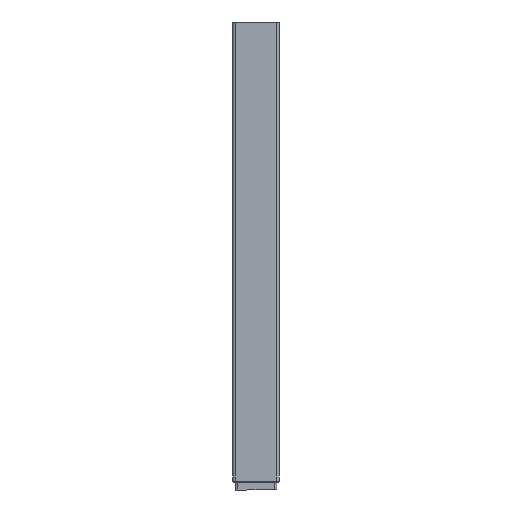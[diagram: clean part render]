
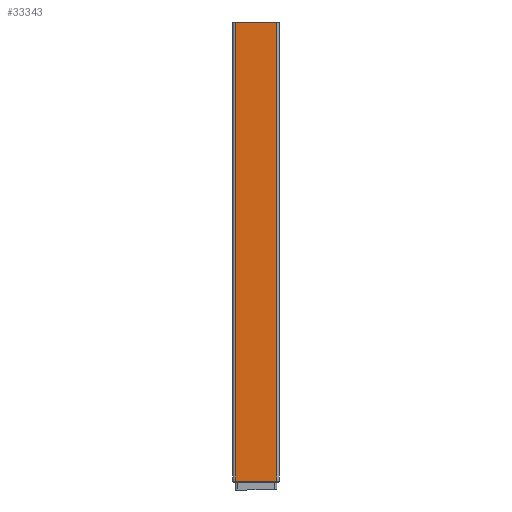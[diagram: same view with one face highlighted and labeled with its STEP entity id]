
A CAD part, left-side view. The second image highlights one B-rep face of the part: STEP entity #33343.
In plain terms, the highlighted planar face has unit normal (-1, 0, 0).
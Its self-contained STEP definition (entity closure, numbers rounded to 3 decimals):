
#1101 = DIRECTION ( 'NONE',  ( 0., 0., -1. ) ) ;
#2892 = DIRECTION ( 'NONE',  ( 0., 0., -1. ) ) ;
#3433 = DIRECTION ( 'NONE',  ( 0., 0., 1. ) ) ;
#5636 = LINE ( 'NONE', #22032, #43999 ) ;
#6403 = EDGE_CURVE ( 'NONE', #23671, #40788, #35235, .T. ) ;
#14227 = ORIENTED_EDGE ( 'NONE', *, *, #6403, .F. ) ;
#16325 = CARTESIAN_POINT ( 'NONE',  ( -33.731, 32.266, -518.033 ) ) ;
#16692 = EDGE_CURVE ( 'NONE', #28388, #42867, #41438, .T. ) ;
#17828 = AXIS2_PLACEMENT_3D ( 'NONE', #24554, #43215, #2892 ) ;
#19169 = EDGE_LOOP ( 'NONE', ( #41015, #38786, #14227, #35701 ) ) ;
#21709 = VECTOR ( 'NONE', #23976, 1000. ) ;
#22032 = CARTESIAN_POINT ( 'NONE',  ( -33.731, -25.234, -518.033 ) ) ;
#23671 = VERTEX_POINT ( 'NONE', #28880 ) ;
#23976 = DIRECTION ( 'NONE',  ( 0., -1., 0. ) ) ;
#24554 = CARTESIAN_POINT ( 'NONE',  ( -33.731, 35.266, -518.033 ) ) ;
#24898 = PLANE ( 'NONE',  #17828 ) ;
#25828 = EDGE_CURVE ( 'NONE', #42867, #40788, #5636, .T. ) ;
#27208 = FACE_OUTER_BOUND ( 'NONE', #19169, .T. ) ;
#28322 = VECTOR ( 'NONE', #1101, 1000. ) ;
#28388 = VERTEX_POINT ( 'NONE', #43061 ) ;
#28880 = CARTESIAN_POINT ( 'NONE',  ( -33.731, 32.266, 84.967 ) ) ;
#33343 = ADVANCED_FACE ( 'NONE', ( #27208 ), #24898, .T. ) ;
#35020 = CARTESIAN_POINT ( 'NONE',  ( -33.731, 35.266, -548.033 ) ) ;
#35235 = LINE ( 'NONE', #40401, #48042 ) ;
#35701 = ORIENTED_EDGE ( 'NONE', *, *, #39282, .T. ) ;
#37030 = LINE ( 'NONE', #16325, #28322 ) ;
#38104 = DIRECTION ( 'NONE',  ( 0., -1., 0. ) ) ;
#38786 = ORIENTED_EDGE ( 'NONE', *, *, #25828, .T. ) ;
#39282 = EDGE_CURVE ( 'NONE', #23671, #28388, #37030, .T. ) ;
#40401 = CARTESIAN_POINT ( 'NONE',  ( -33.731, 35.266, 84.967 ) ) ;
#40788 = VERTEX_POINT ( 'NONE', #45187 ) ;
#41015 = ORIENTED_EDGE ( 'NONE', *, *, #16692, .T. ) ;
#41438 = LINE ( 'NONE', #35020, #21709 ) ;
#42867 = VERTEX_POINT ( 'NONE', #43010 ) ;
#43010 = CARTESIAN_POINT ( 'NONE',  ( -33.731, -25.234, -548.033 ) ) ;
#43061 = CARTESIAN_POINT ( 'NONE',  ( -33.731, 32.266, -548.033 ) ) ;
#43215 = DIRECTION ( 'NONE',  ( -1., 0., 0. ) ) ;
#43999 = VECTOR ( 'NONE', #3433, 1000. ) ;
#45187 = CARTESIAN_POINT ( 'NONE',  ( -33.731, -25.234, 84.967 ) ) ;
#48042 = VECTOR ( 'NONE', #38104, 1000. ) ;
